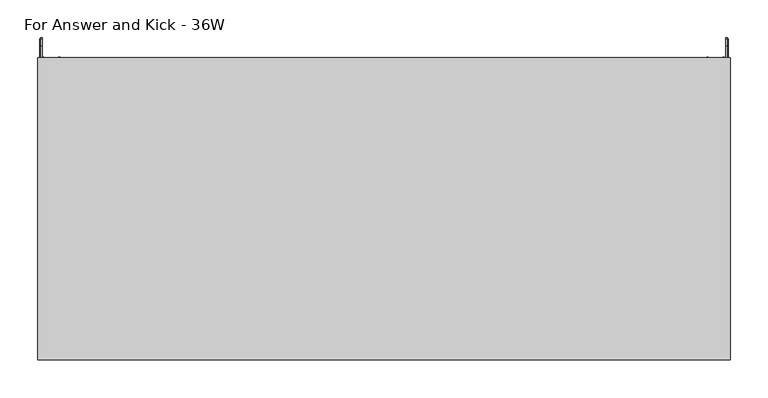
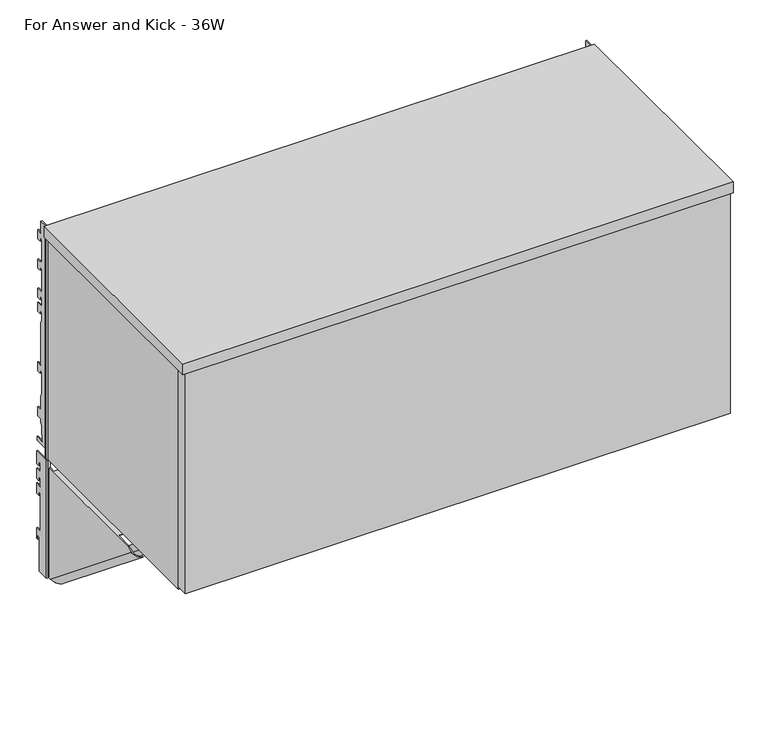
"""IFC4 building model written with IfcOpenShell, lengths in millimetres: furniture geometry, Steelcase - Universal Storage - In the Case Bin - Flat Front : For Answer and Kick - 36W."""

from ifc_helpers import new_model, si_unit, point, frame, frame_2d, origin, place, context, project, spatial, polyline, circle_curve, ellipse_curve, trimmed, segment, composite_curve, outline, extrude, faceted_brep, source, transform, mapped, element, save
from ifc_brep_helpers import plane_surface, cylinder_surface, revolved_surface, advanced_brep


def for_answer_and_kick_36w_da389676(model_context):
    return source(origin(), model_context, "Body", "SolidModel", [
        advanced_brep(
        [(4.0894, 24.9864881, 1247.9655), (4.0894, 1.1327479, 1247.9655), (4.0894, 1.1203386, 1040.9809), (4.0894, 17.3410881, 1040.9809), (4.0894, 17.3410881, 1101.1280822), (4.0894, 21.4050888, 1101.1280822), (4.0894, 21.4050888, 1094.7781064), (4.0894, 24.9864881, 1094.7781064), (4.0894, 24.9864881, 1113.0407271), (4.0894, 14.7756879, 1113.0407271), (4.0894, 14.7756879, 1179.6141345), (4.0894, 18.8396885, 1179.6141345), (4.0894, 18.8396885, 1173.264086), (4.0894, 24.9864881, 1173.264086), (4.0894, 24.9864881, 1191.5267068), (4.0894, 14.7756879, 1191.5267068), (4.0894, 14.7756879, 1205.7761277), (4.0894, 18.8396885, 1205.7761277), (4.0894, 18.8396885, 1199.4260793), (4.0894, 24.9864881, 1199.4260793), (4.0894, 24.9864881, 1217.6887), (4.0894, 14.7756879, 1217.6887), (4.0894, 14.7756879, 1231.9381209), (4.0894, 18.8396885, 1231.9381209), (4.0894, 18.8396885, 1225.5880725), (4.0894, 24.9864881, 1225.5880725), (2.1844, 24.9864881, 1247.9655), (2.1844, 24.9864881, 1225.5880725), (2.1844, 18.8396885, 1225.5880725), (2.1844, 18.8396885, 1231.9381209), (2.1844, 14.7756879, 1231.9381209), (2.1844, 14.7756879, 1217.6887), (2.1844, 24.9864881, 1217.6887), (2.1844, 24.9864881, 1199.4260793), (2.1844, 18.8396885, 1199.4260793), (2.1844, 18.8396885, 1205.7761277), (2.1844, 14.7756879, 1205.7761277), (2.1844, 14.7756879, 1191.5267068), (2.1844, 24.9864881, 1191.5267068), (2.1844, 24.9864881, 1173.264086), (2.1844, 18.8396885, 1173.264086), (2.1844, 18.8396885, 1179.6141345), (2.1844, 14.7756879, 1179.6141345), (2.1844, 14.7756879, 1113.0407271), (2.1844, 24.9864881, 1113.0407271), (2.1844, 24.9864881, 1094.7781064), (2.1844, 21.4050888, 1094.7781064), (2.1844, 21.4050888, 1101.1280822), (2.1844, 17.3410881, 1101.1280822), (2.1844, 17.3410881, 1040.9809), (2.1844, -0.7757522, 1040.9809), (2.1844, -0.7757522, 1247.9655), (4.4891598, -3.080512, 1247.9655), (8.1026, -3.080512, 1247.9655), (8.1026, -1.7838863, 1247.9655), (7.4942256, -1.175512, 1247.9655), (6.3852506, -1.175512, 1247.9655), (6.3852506, -1.175512, 1040.9809), (7.4942256, -1.175512, 1040.9809), (8.1026, -1.7838863, 1040.9809), (8.1026, -3.080512, 1040.9809), (4.4891598, -3.080512, 1040.9809)],
        [
            (0, 1),
            (1, 2),
            (2, 3),
            (3, 4),
            (4, 5),
            (5, 6),
            (6, 7),
            (7, 8),
            (8, 9),
            (9, 10),
            (10, 11),
            (11, 12),
            (12, 13),
            (13, 14),
            (14, 15),
            (15, 16),
            (16, 17),
            (17, 18),
            (18, 19),
            (19, 20),
            (20, 21),
            (21, 22),
            (22, 23),
            (23, 24),
            (24, 25),
            (25, 0),
            (26, 27),
            (27, 28),
            (28, 29),
            (29, 30),
            (30, 31),
            (31, 32),
            (32, 33),
            (33, 34),
            (34, 35),
            (35, 36),
            (36, 37),
            (37, 38),
            (38, 39),
            (39, 40),
            (40, 41),
            (41, 42),
            (42, 43),
            (43, 44),
            (44, 45),
            (45, 46),
            (46, 47),
            (47, 48),
            (48, 49),
            (49, 50),
            (50, 51),
            (51, 26),
            (0, 26),
            (51, 52, circle_curve(frame((4.4891598, -0.7757522, 1247.9655), z_axis=(0.0, 0.0, 1.0), x_axis=(1.0, 0.0, 0.0)), 2.3047598)),
            (52, 53),
            (53, 54),
            (54, 55, circle_curve(frame((7.4942256, -1.7838863, 1247.9655), z_axis=(0.0, 0.0, 1.0), x_axis=(1.0, 0.0, 0.0)), 0.6083744)),
            (55, 56),
            (56, 1, circle_curve(frame((6.3852506, 1.1203386, 1247.9655), z_axis=(0.0, 0.0, -1.0), x_axis=(1.0, 0.0, 0.0)), 2.2958506)),
            (2, 57, circle_curve(frame((6.3852506, 1.1203386, 1040.9809), z_axis=(0.0, 0.0, 1.0), x_axis=(1.0, 0.0, 0.0)), 2.2958506)),
            (57, 58),
            (58, 59, circle_curve(frame((7.4942256, -1.7838863, 1040.9809), z_axis=(0.0, 0.0, -1.0), x_axis=(1.0, 0.0, 0.0)), 0.6083744)),
            (59, 60),
            (60, 61),
            (61, 50, circle_curve(frame((4.4891598, -0.7757522, 1040.9809), z_axis=(0.0, 0.0, -1.0), x_axis=(1.0, 0.0, 0.0)), 2.3047598)),
            (49, 3),
            (48, 4),
            (47, 5),
            (46, 6),
            (45, 7),
            (44, 8),
            (43, 9),
            (42, 10),
            (41, 11),
            (40, 12),
            (39, 13),
            (38, 14),
            (37, 15),
            (36, 16),
            (35, 17),
            (34, 18),
            (33, 19),
            (32, 20),
            (31, 21),
            (30, 22),
            (29, 23),
            (28, 24),
            (27, 25),
            (61, 52),
            (60, 53),
            (59, 54),
            (58, 55),
            (57, 56),
        ],
        [
            plane_surface(frame((4.0894, 1.241405, 1247.9655), z_axis=(1.0, 0.0, 0.0), x_axis=(0.0, -1.0, 0.0))),
            plane_surface(frame((2.1844, 1.241405, 1247.9655), z_axis=(-1.0, 0.0, 0.0), x_axis=(0.0, 1.0, 0.0))),
            plane_surface(frame((4.0894, 24.9864881, 1247.9655), z_axis=(0.0, 0.0, 1.0), x_axis=(-1.0, 0.0, 0.0))),
            plane_surface(frame((4.0894, 1.1327479, 1040.9809), z_axis=(0.0, 0.0, -1.0), x_axis=(-1.0, 0.0, 0.0))),
            plane_surface(frame((4.0894, 17.3410881, 1040.9809), z_axis=(0.0, 1.0, 0.0), x_axis=(-1.0, 0.0, 0.0))),
            plane_surface(frame((4.0894, 17.3410881, 1101.1280822), z_axis=(0.0, 0.0, -1.0), x_axis=(-1.0, 0.0, 0.0))),
            plane_surface(frame((4.0894, 21.4050888, 1101.1280822), z_axis=(0.0, -1.0, 0.0), x_axis=(-1.0, 0.0, 0.0))),
            plane_surface(frame((4.0894, 21.4050888, 1094.7781064), z_axis=(0.0, 0.0, -1.0), x_axis=(-1.0, 0.0, 0.0))),
            plane_surface(frame((4.0894, 24.9864881, 1094.7781064), z_axis=(0.0, 1.0, 0.0), x_axis=(-1.0, 0.0, 0.0))),
            plane_surface(frame((4.0894, 24.9864881, 1113.0407271), z_axis=(0.0, 0.0, 1.0), x_axis=(-1.0, 0.0, 0.0))),
            plane_surface(frame((4.0894, 14.7756879, 1113.0407271), z_axis=(0.0, 1.0, 0.0), x_axis=(-1.0, 0.0, 0.0))),
            plane_surface(frame((4.0894, 14.7756879, 1179.6141345), z_axis=(0.0, 0.0, -1.0), x_axis=(-1.0, 0.0, 0.0))),
            plane_surface(frame((4.0894, 18.8396885, 1179.6141345), z_axis=(0.0, -1.0, 0.0), x_axis=(-1.0, 0.0, 0.0))),
            plane_surface(frame((4.0894, 18.8396885, 1173.264086), z_axis=(0.0, 0.0, -1.0), x_axis=(-1.0, 0.0, 0.0))),
            plane_surface(frame((4.0894, 24.9864881, 1173.264086), z_axis=(0.0, 1.0, 0.0), x_axis=(-1.0, 0.0, 0.0))),
            plane_surface(frame((4.0894, 24.9864881, 1191.5267068), z_axis=(0.0, 0.0, 1.0), x_axis=(-1.0, 0.0, 0.0))),
            plane_surface(frame((4.0894, 14.7756879, 1191.5267068), z_axis=(0.0, 1.0, 0.0), x_axis=(-1.0, 0.0, 0.0))),
            plane_surface(frame((4.0894, 14.7756879, 1205.7761277), z_axis=(0.0, 0.0, -1.0), x_axis=(-1.0, 0.0, 0.0))),
            plane_surface(frame((4.0894, 18.8396885, 1205.7761277), z_axis=(0.0, -1.0, 0.0), x_axis=(-1.0, 0.0, 0.0))),
            plane_surface(frame((4.0894, 18.8396885, 1199.4260793), z_axis=(0.0, 0.0, -1.0), x_axis=(-1.0, 0.0, 0.0))),
            plane_surface(frame((4.0894, 24.9864881, 1199.4260793), z_axis=(0.0, 1.0, 0.0), x_axis=(-1.0, 0.0, 0.0))),
            plane_surface(frame((4.0894, 24.9864881, 1217.6887), z_axis=(0.0, 0.0, 1.0), x_axis=(-1.0, 0.0, 0.0))),
            plane_surface(frame((4.0894, 14.7756879, 1217.6887), z_axis=(0.0, 1.0, 0.0), x_axis=(-1.0, 0.0, 0.0))),
            plane_surface(frame((4.0894, 14.7756879, 1231.9381209), z_axis=(0.0, 0.0, -1.0), x_axis=(-1.0, 0.0, 0.0))),
            plane_surface(frame((4.0894, 18.8396885, 1231.9381209), z_axis=(0.0, -1.0, 0.0), x_axis=(-1.0, 0.0, 0.0))),
            plane_surface(frame((4.0894, 18.8396885, 1225.5880725), z_axis=(0.0, 0.0, -1.0), x_axis=(-1.0, 0.0, 0.0))),
            plane_surface(frame((4.0894, 24.9864881, 1225.5880725), z_axis=(0.0, 1.0, 0.0), x_axis=(-1.0, 0.0, 0.0))),
            cylinder_surface(frame((4.4891598, -0.7757522, 1040.9809), z_axis=(0.0, 0.0, 1.0), x_axis=(1.0, 0.0, 0.0)), 2.3047598),
            plane_surface(frame((4.4891598, -3.080512, 1247.9655), z_axis=(0.0, -1.0, 0.0), x_axis=(0.0, 0.0, -1.0))),
            plane_surface(frame((8.1026, -3.080512, 1247.9655), z_axis=(1.0, 0.0, 0.0), x_axis=(0.0, 0.0, -1.0))),
            cylinder_surface(frame((7.4942256, -1.7838863, 1040.9809), z_axis=(0.0, 0.0, 1.0), x_axis=(1.0, 0.0, 0.0)), 0.6083744),
            plane_surface(frame((7.4942256, -1.175512, 1247.9655), z_axis=(0.0, 1.0, 0.0), x_axis=(0.0, 0.0, -1.0))),
            revolved_surface(polyline([(8.6811012, 1.1203386, 1040.9809), (8.6811012, 1.1203386, 1247.9655)]), (6.3852506, 1.1203386, 1040.9809), (0.0, 0.0, -1.0)),
        ],
        [
            (0, [[1, 2, 3, 4, 5, 6, 7, 8, 9, 10, 11, 12, 13, 14, 15, 16, 17, 18, 19, 20, 21, 22, 23, 24, 25, 26]]),
            (1, [[27, 28, 29, 30, 31, 32, 33, 34, 35, 36, 37, 38, 39, 40, 41, 42, 43, 44, 45, 46, 47, 48, 49, 50, 51, 52]]),
            (2, [[-1, 53, -52, 54, 55, 56, 57, 58, 59]]),
            (3, [[-3, 60, 61, 62, 63, 64, 65, -50, 66]]),
            (4, [[-4, -66, -49, 67]]),
            (5, [[-5, -67, -48, 68]]),
            (6, [[-6, -68, -47, 69]]),
            (7, [[-7, -69, -46, 70]]),
            (8, [[-8, -70, -45, 71]]),
            (9, [[-9, -71, -44, 72]]),
            (10, [[-10, -72, -43, 73]]),
            (11, [[-11, -73, -42, 74]]),
            (12, [[-12, -74, -41, 75]]),
            (13, [[-13, -75, -40, 76]]),
            (14, [[-14, -76, -39, 77]]),
            (15, [[-15, -77, -38, 78]]),
            (16, [[-16, -78, -37, 79]]),
            (17, [[-17, -79, -36, 80]]),
            (18, [[-18, -80, -35, 81]]),
            (19, [[-19, -81, -34, 82]]),
            (20, [[-20, -82, -33, 83]]),
            (21, [[-21, -83, -32, 84]]),
            (22, [[-22, -84, -31, 85]]),
            (23, [[-23, -85, -30, 86]]),
            (24, [[-24, -86, -29, 87]]),
            (25, [[-25, -87, -28, 88]]),
            (26, [[-26, -88, -27, -53]]),
            (27, [[-54, -51, -65, 89]]),
            (28, [[-55, -89, -64, 90]]),
            (29, [[-56, -90, -63, 91]]),
            (30, [[-57, -91, -62, 92]]),
            (31, [[-58, -92, -61, 93]]),
            (32, [[-59, -93, -60, -2]]),
        ],
    ),
        advanced_brep(
        [(910.3106, 24.9864881, 1247.9655), (910.3106, 24.9864881, 1225.5880725), (910.3106, 18.8396885, 1225.5880725), (910.3106, 18.8396885, 1231.9381209), (910.3106, 14.7756879, 1231.9381209), (910.3106, 14.7756879, 1217.6887), (910.3106, 24.9864881, 1217.6887), (910.3106, 24.9864881, 1199.4260793), (910.3106, 18.8396885, 1199.4260793), (910.3106, 18.8396885, 1205.7761277), (910.3106, 14.7756879, 1205.7761277), (910.3106, 14.7756879, 1191.5267068), (910.3106, 24.9864881, 1191.5267068), (910.3106, 24.9864881, 1173.264086), (910.3106, 18.8396885, 1173.264086), (910.3106, 18.8396885, 1179.6141345), (910.3106, 14.7756879, 1179.6141345), (910.3106, 14.7756879, 1113.0407271), (910.3106, 24.9864881, 1113.0407271), (910.3106, 24.9864881, 1094.7781064), (910.3106, 21.4050888, 1094.7781064), (910.3106, 21.4050888, 1101.1280822), (910.3106, 17.3410881, 1101.1280822), (910.3106, 17.3410881, 1040.9809), (910.3106, 1.1327479, 1040.9809), (910.3106, 1.1203386, 1247.9655), (912.2156, -0.7757522, 1247.9655), (912.2156, -0.7757522, 1040.9809), (912.2156, 17.3410881, 1040.9809), (912.2156, 17.3410881, 1101.1280822), (912.2156, 21.4050888, 1101.1280822), (912.2156, 21.4050888, 1094.7781064), (912.2156, 24.9864881, 1094.7781064), (912.2156, 24.9864881, 1113.0407271), (912.2156, 14.7756879, 1113.0407271), (912.2156, 14.7756879, 1179.6141345), (912.2156, 18.8396885, 1179.6141345), (912.2156, 18.8396885, 1173.264086), (912.2156, 24.9864881, 1173.264086), (912.2156, 24.9864881, 1191.5267068), (912.2156, 14.7756879, 1191.5267068), (912.2156, 14.7756879, 1205.7761277), (912.2156, 18.8396885, 1205.7761277), (912.2156, 18.8396885, 1199.4260793), (912.2156, 24.9864881, 1199.4260793), (912.2156, 24.9864881, 1217.6887), (912.2156, 14.7756879, 1217.6887), (912.2156, 14.7756879, 1231.9381209), (912.2156, 18.8396885, 1231.9381209), (912.2156, 18.8396885, 1225.5880725), (912.2156, 24.9864881, 1225.5880725), (912.2156, 24.9864881, 1247.9655), (909.9108402, -3.080512, 1040.9809), (906.5006, -3.080512, 1040.9809), (906.5006, -1.7838863, 1040.9809), (907.1089744, -1.175512, 1040.9809), (908.0147494, -1.175512, 1040.9809), (908.0147494, -1.175512, 1247.9655), (907.1089744, -1.175512, 1247.9655), (906.5006, -1.7838863, 1247.9655), (906.5006, -3.080512, 1247.9655), (909.9108402, -3.080512, 1247.9655)],
        [
            (0, 1),
            (1, 2),
            (2, 3),
            (3, 4),
            (4, 5),
            (5, 6),
            (6, 7),
            (7, 8),
            (8, 9),
            (9, 10),
            (10, 11),
            (11, 12),
            (12, 13),
            (13, 14),
            (14, 15),
            (15, 16),
            (16, 17),
            (17, 18),
            (18, 19),
            (19, 20),
            (20, 21),
            (21, 22),
            (22, 23),
            (23, 24),
            (24, 25),
            (25, 0),
            (26, 27),
            (27, 28),
            (28, 29),
            (29, 30),
            (30, 31),
            (31, 32),
            (32, 33),
            (33, 34),
            (34, 35),
            (35, 36),
            (36, 37),
            (37, 38),
            (38, 39),
            (39, 40),
            (40, 41),
            (41, 42),
            (42, 43),
            (43, 44),
            (44, 45),
            (45, 46),
            (46, 47),
            (47, 48),
            (48, 49),
            (49, 50),
            (50, 51),
            (51, 26),
            (0, 51),
            (50, 1),
            (49, 2),
            (48, 3),
            (47, 4),
            (46, 5),
            (45, 6),
            (44, 7),
            (43, 8),
            (42, 9),
            (41, 10),
            (40, 11),
            (39, 12),
            (38, 13),
            (37, 14),
            (36, 15),
            (35, 16),
            (34, 17),
            (33, 18),
            (32, 19),
            (31, 20),
            (30, 21),
            (29, 22),
            (28, 23),
            (27, 52, circle_curve(frame((909.9108402, -0.7757522, 1040.9809), z_axis=(0.0, 0.0, -1.0), x_axis=(0.0, 1.0, 0.0)), 2.3047598)),
            (52, 53),
            (53, 54),
            (54, 55, circle_curve(frame((907.1089744, -1.7838863, 1040.9809), z_axis=(0.0, 0.0, -1.0), x_axis=(0.0, 1.0, 0.0)), 0.6083744)),
            (55, 56),
            (56, 24, circle_curve(frame((908.0147494, 1.1203386, 1040.9809), z_axis=(0.0, 0.0, 1.0), x_axis=(0.0, 1.0, 0.0)), 2.2958506)),
            (25, 57, circle_curve(frame((908.0147494, 1.1203386, 1247.9655), z_axis=(0.0, 0.0, -1.0), x_axis=(0.0, 1.0, 0.0)), 2.2958506)),
            (57, 58),
            (58, 59, circle_curve(frame((907.1089744, -1.7838863, 1247.9655), z_axis=(0.0, 0.0, 1.0), x_axis=(0.0, 1.0, 0.0)), 0.6083744)),
            (59, 60),
            (60, 61),
            (61, 26, circle_curve(frame((909.9108402, -0.7757522, 1247.9655), z_axis=(0.0, 0.0, 1.0), x_axis=(0.0, 1.0, 0.0)), 2.3047598)),
            (56, 57),
            (55, 58),
            (54, 59),
            (53, 60),
            (52, 61),
        ],
        [
            plane_surface(frame((910.3106, 24.9864881, 1247.9655), z_axis=(-1.0, 0.0, 0.0), x_axis=(0.0, 0.0, -1.0))),
            plane_surface(frame((912.2156, 24.9864881, 1247.9655), z_axis=(1.0, 0.0, 0.0), x_axis=(0.0, 0.0, 1.0))),
            plane_surface(frame((910.3106, 24.9864881, 1247.9655), z_axis=(0.0, 1.0, 0.0), x_axis=(1.0, 0.0, 0.0))),
            plane_surface(frame((910.3106, 24.9864881, 1225.5880725), z_axis=(0.0, 0.0, -1.0), x_axis=(1.0, 0.0, 0.0))),
            plane_surface(frame((910.3106, 18.8396885, 1225.5880725), z_axis=(0.0, -1.0, 0.0), x_axis=(1.0, 0.0, 0.0))),
            plane_surface(frame((910.3106, 18.8396885, 1231.9381209), z_axis=(0.0, 0.0, -1.0), x_axis=(1.0, 0.0, 0.0))),
            plane_surface(frame((910.3106, 14.7756879, 1231.9381209), z_axis=(0.0, 1.0, 0.0), x_axis=(1.0, 0.0, 0.0))),
            plane_surface(frame((910.3106, 14.7756879, 1217.6887), z_axis=(0.0, 0.0, 1.0), x_axis=(1.0, 0.0, 0.0))),
            plane_surface(frame((910.3106, 24.9864881, 1217.6887), z_axis=(0.0, 1.0, 0.0), x_axis=(1.0, 0.0, 0.0))),
            plane_surface(frame((910.3106, 24.9864881, 1199.4260793), z_axis=(0.0, 0.0, -1.0), x_axis=(1.0, 0.0, 0.0))),
            plane_surface(frame((910.3106, 18.8396885, 1199.4260793), z_axis=(0.0, -1.0, 0.0), x_axis=(1.0, 0.0, 0.0))),
            plane_surface(frame((910.3106, 18.8396885, 1205.7761277), z_axis=(0.0, 0.0, -1.0), x_axis=(1.0, 0.0, 0.0))),
            plane_surface(frame((910.3106, 14.7756879, 1205.7761277), z_axis=(0.0, 1.0, 0.0), x_axis=(1.0, 0.0, 0.0))),
            plane_surface(frame((910.3106, 14.7756879, 1191.5267068), z_axis=(0.0, 0.0, 1.0), x_axis=(1.0, 0.0, 0.0))),
            plane_surface(frame((910.3106, 24.9864881, 1191.5267068), z_axis=(0.0, 1.0, 0.0), x_axis=(1.0, 0.0, 0.0))),
            plane_surface(frame((910.3106, 24.9864881, 1173.264086), z_axis=(0.0, 0.0, -1.0), x_axis=(1.0, 0.0, 0.0))),
            plane_surface(frame((910.3106, 18.8396885, 1173.264086), z_axis=(0.0, -1.0, 0.0), x_axis=(1.0, 0.0, 0.0))),
            plane_surface(frame((910.3106, 18.8396885, 1179.6141345), z_axis=(0.0, 0.0, -1.0), x_axis=(1.0, 0.0, 0.0))),
            plane_surface(frame((910.3106, 14.7756879, 1179.6141345), z_axis=(0.0, 1.0, 0.0), x_axis=(1.0, 0.0, 0.0))),
            plane_surface(frame((910.3106, 14.7756879, 1113.0407271), z_axis=(0.0, 0.0, 1.0), x_axis=(1.0, 0.0, 0.0))),
            plane_surface(frame((910.3106, 24.9864881, 1113.0407271), z_axis=(0.0, 1.0, 0.0), x_axis=(1.0, 0.0, 0.0))),
            plane_surface(frame((910.3106, 24.9864881, 1094.7781064), z_axis=(0.0, 0.0, -1.0), x_axis=(1.0, 0.0, 0.0))),
            plane_surface(frame((910.3106, 21.4050888, 1094.7781064), z_axis=(0.0, -1.0, 0.0), x_axis=(1.0, 0.0, 0.0))),
            plane_surface(frame((910.3106, 21.4050888, 1101.1280822), z_axis=(0.0, 0.0, -1.0), x_axis=(1.0, 0.0, 0.0))),
            plane_surface(frame((910.3106, 17.3410881, 1101.1280822), z_axis=(0.0, 1.0, 0.0), x_axis=(1.0, 0.0, 0.0))),
            plane_surface(frame((910.3106, 17.3410881, 1040.9809), z_axis=(0.0, 0.0, -1.0), x_axis=(1.0, 0.0, 0.0))),
            plane_surface(frame((910.3106, 1.1327479, 1247.9655), z_axis=(0.0, 0.0, 1.0), x_axis=(1.0, 0.0, 0.0))),
            revolved_surface(polyline([(908.0147494, 3.4161892, 1040.9809), (908.0147494, 3.4161892, 1247.9655)]), (908.0147494, 1.1203386, 1040.9809), (0.0, 0.0, -1.0)),
            plane_surface(frame((908.0147494, -1.175512, 1247.9655), z_axis=(3.842968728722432e-11, 1.0, 0.0), x_axis=(0.0, 0.0, -1.0))),
            cylinder_surface(frame((907.1089744, -1.7838863, 1040.9809), z_axis=(0.0, 0.0, 1.0), x_axis=(0.0, 1.0, 0.0)), 0.6083744),
            plane_surface(frame((906.5006, -1.7838863, 1247.9655), z_axis=(-1.0, 0.0, 0.0), x_axis=(0.0, 0.0, -1.0))),
            plane_surface(frame((906.5006, -3.080512, 1247.9655), z_axis=(7.375377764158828e-12, -1.0, 0.0), x_axis=(0.0, 0.0, -1.0))),
            cylinder_surface(frame((909.9108402, -0.7757522, 1040.9809), z_axis=(0.0, 0.0, 1.0), x_axis=(0.0, 1.0, 0.0)), 2.3047598),
        ],
        [
            (0, [[1, 2, 3, 4, 5, 6, 7, 8, 9, 10, 11, 12, 13, 14, 15, 16, 17, 18, 19, 20, 21, 22, 23, 24, 25, 26]]),
            (1, [[27, 28, 29, 30, 31, 32, 33, 34, 35, 36, 37, 38, 39, 40, 41, 42, 43, 44, 45, 46, 47, 48, 49, 50, 51, 52]]),
            (2, [[-1, 53, -51, 54]]),
            (3, [[-2, -54, -50, 55]]),
            (4, [[-3, -55, -49, 56]]),
            (5, [[-4, -56, -48, 57]]),
            (6, [[-5, -57, -47, 58]]),
            (7, [[-6, -58, -46, 59]]),
            (8, [[-7, -59, -45, 60]]),
            (9, [[-8, -60, -44, 61]]),
            (10, [[-9, -61, -43, 62]]),
            (11, [[-10, -62, -42, 63]]),
            (12, [[-11, -63, -41, 64]]),
            (13, [[-12, -64, -40, 65]]),
            (14, [[-13, -65, -39, 66]]),
            (15, [[-14, -66, -38, 67]]),
            (16, [[-15, -67, -37, 68]]),
            (17, [[-16, -68, -36, 69]]),
            (18, [[-17, -69, -35, 70]]),
            (19, [[-18, -70, -34, 71]]),
            (20, [[-19, -71, -33, 72]]),
            (21, [[-20, -72, -32, 73]]),
            (22, [[-21, -73, -31, 74]]),
            (23, [[-22, -74, -30, 75]]),
            (24, [[-23, -75, -29, 76]]),
            (25, [[-24, -76, -28, 77, 78, 79, 80, 81, 82]]),
            (26, [[-26, 83, 84, 85, 86, 87, 88, -52, -53]]),
            (27, [[-83, -25, -82, 89]]),
            (28, [[-84, -89, -81, 90]]),
            (29, [[-85, -90, -80, 91]]),
            (30, [[-86, -91, -79, 92]]),
            (31, [[-87, -92, -78, 93]]),
            (32, [[-88, -93, -77, -27]]),
        ],
    ),
        advanced_brep(
        [(885.3424, -230.0833372, 1233.8431), (885.3424, 1.1327479, 1046.6079738), (883.2342, 1.1327479, 1046.6079738), (883.2342, -230.0833372, 1233.8431), (883.2342, 1.1327479, 1040.9809), (883.2342, -7.7654502, 1040.9809), (883.2342, -240.6555763, 1229.5716381), (906.5006, -7.7654502, 1040.9809), (906.5006, -240.6555763, 1229.5716381), (906.5006, 1.1327479, 1040.9809), (906.5006, 1.1327479, 1046.6079738), (906.5006, -3.080512, 1050.019805), (906.5006, -3.080512, 1233.8431), (906.5006, -230.0833372, 1233.8431), (904.3924009, 1.1327479, 1046.6079738), (904.3924009, -3.080512, 1050.019805), (904.3924009, -7.7654502, 1040.9809), (904.3924009, -240.6555763, 1229.5716381), (904.3924009, -230.0833372, 1233.8431), (904.3924009, -200.311512, 1233.8431), (904.3924009, -200.311512, 1233.0049163), (904.3924009, -14.0787123, 1233.0049163), (904.3924009, -14.0787123, 1233.8431), (904.3924009, -3.080512, 1233.8431), (904.3924009, 1.1327479, 1040.9809), (885.3424, -7.7654502, 1040.9809), (885.3424, -240.6555763, 1229.5716381), (885.3424, 1.1327479, 1040.9809), (875.4617978, -200.311512, 1233.8431), (875.4617978, -200.311512, 1252.2581016), (874.6236, -200.311512, 1252.2581016), (874.6236, -200.311512, 1233.0049163), (874.6236, -82.5825138, 1252.2581016), (875.4617978, -82.5825138, 1252.2581016), (875.4617978, -82.5825138, 1233.8431), (874.6236, -82.5825138, 1233.8431), (874.6236, -14.0787123, 1233.8431), (874.6236, -14.0787123, 1233.0049163)],
        [
            (0, 1),
            (1, 2),
            (2, 3),
            (3, 0),
            (2, 4),
            (4, 5),
            (5, 6),
            (6, 3),
            (5, 7, ellipse_curve(frame((894.8674, -7.7654502, 1040.9809), z_axis=(0.0, 0.0, 1.0), x_axis=(0.0, -1.0, 0.0)), 18.4853359, 11.6332)),
            (7, 8),
            (8, 6, ellipse_curve(frame((894.8674, -240.6555763, 1229.5716381), z_axis=(0.0, 0.374606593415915, -0.9271838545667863), x_axis=(0.0, -0.9271838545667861, -0.3746065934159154)), 13.3008659, 11.6332)),
            (7, 9),
            (9, 10),
            (10, 11),
            (11, 12),
            (12, 13),
            (13, 8),
            (10, 14),
            (14, 15),
            (15, 11),
            (16, 17),
            (17, 18),
            (18, 19),
            (19, 20),
            (20, 21),
            (21, 22),
            (22, 23),
            (23, 15),
            (14, 24),
            (24, 16),
            (16, 25, ellipse_curve(frame((894.8674005, -7.7654502, 1040.9809), z_axis=(0.0, 0.0, -1.0), x_axis=(0.0, 1.0, 0.0)), 15.135374, 9.5250005)),
            (25, 26),
            (26, 17, ellipse_curve(frame((894.8674005, -240.6555763, 1229.5716381), z_axis=(0.0, -0.374606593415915, 0.9271838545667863), x_axis=(0.0, 0.9271838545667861, 0.3746065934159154)), 10.8904475, 9.5250005)),
            (0, 26),
            (25, 27),
            (27, 1),
            (13, 18),
            (24, 9),
            (4, 27),
            (28, 29),
            (29, 30),
            (30, 31),
            (31, 20),
            (19, 28),
            (32, 33),
            (33, 34),
            (34, 35),
            (35, 32),
            (35, 36),
            (36, 37),
            (37, 31),
            (30, 32),
            (28, 34),
            (33, 29),
            (36, 22),
            (21, 37),
            (12, 23),
        ],
        [
            plane_surface(frame((885.3424, -241.2702093, 1242.902052), z_axis=(0.0, 0.6293204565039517, 0.7771459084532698), x_axis=(0.0, 0.7771459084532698, -0.6293204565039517))),
            plane_surface(frame((883.2342, -241.2702093, 1242.902052), z_axis=(-1.0000000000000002, 0.0, 0.0), x_axis=(0.0, 0.7771459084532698, -0.6293204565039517))),
            cylinder_surface(frame((894.8674, 5.728998, 1030.0533094), z_axis=(0.0, -0.7771459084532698, 0.6293204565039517), x_axis=(0.0, 0.6293204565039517, 0.7771459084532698)), 11.6332),
            plane_surface(frame((906.5006, -247.5463438, 1235.1516726), z_axis=(1.0000000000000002, 0.0, 0.0), x_axis=(0.0, 0.7771459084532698, -0.6293204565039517))),
            plane_surface(frame((906.5006, -241.2702093, 1242.902052), z_axis=(0.0, 0.6293204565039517, 0.7771459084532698), x_axis=(0.0, 0.7771459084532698, -0.6293204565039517))),
            plane_surface(frame((904.3924009, -241.2702093, 1242.902052), z_axis=(-1.0000000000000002, 0.0, 0.0), x_axis=(0.0, 0.7771459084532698, -0.6293204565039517))),
            revolved_surface(polyline([(894.8674005, 7.3699238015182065, 1040.980900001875), (894.8674005, -238.76446812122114, 1240.2966349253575)]), (894.8674005, 5.728998, 1030.0533094), (0.0, 0.7771459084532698, -0.6293204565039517)),
            plane_surface(frame((885.3424, -247.5463438, 1235.1516726), z_axis=(1.0000000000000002, 0.0, 0.0), x_axis=(0.0, 0.7771459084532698, -0.6293204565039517))),
            plane_surface(frame((914.4, -257.2236519, 1222.8777011), z_axis=(0.0, -0.374606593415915, 0.9271838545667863), x_axis=(-1.0, 0.0, 0.0))),
            plane_surface(frame((914.4, 1.1327479, 1040.9809), z_axis=(0.0, 0.0, -1.0), x_axis=(-1.0, 0.0, 0.0))),
            plane_surface(frame((914.4, 1.1327479, 1053.6809), z_axis=(0.0, 1.0, 0.0), x_axis=(-1.0, 0.0, 0.0))),
            plane_surface(frame((874.6236, -200.311512, 1252.2581016), z_axis=(0.0, -1.0, 0.0), x_axis=(0.0, 0.0, -1.0))),
            plane_surface(frame((874.6236, -82.5825138, 1252.2581016), z_axis=(0.0, 1.0, 0.0), x_axis=(0.0, 0.0, 1.0))),
            plane_surface(frame((874.6236, -200.311512, 1252.2581016), z_axis=(-1.0, 0.0, 0.0), x_axis=(0.0, 1.0, 0.0))),
            plane_surface(frame((875.4617978, -200.311512, 1233.8431), z_axis=(1.0, 0.0, 0.0), x_axis=(0.0, 1.0, 0.0))),
            plane_surface(frame((875.4617978, -200.311512, 1252.2581016), z_axis=(0.0, 0.0, 1.0), x_axis=(0.0, 1.0, 0.0))),
            plane_surface(frame((874.6236, -14.0787123, 1233.8431), z_axis=(0.0, 1.0, 0.0), x_axis=(0.0, 0.0, 1.0))),
            plane_surface(frame((874.6236, -200.311512, 1233.0049163), z_axis=(0.0, 0.0, -1.0), x_axis=(0.0, 1.0, 0.0))),
            plane_surface(frame((906.5006, -200.311512, 1233.8431), z_axis=(0.0, 0.0, 1.0), x_axis=(0.0, 1.0, 0.0))),
            plane_surface(frame((906.5006, -3.080512, 1050.019805), z_axis=(0.0, 1.0, 0.0), x_axis=(-1.0, 0.0, 0.0))),
        ],
        [
            (0, [[1, 2, 3, 4]]),
            (1, [[-3, 5, 6, 7, 8]]),
            (2, [[-7, 9, 10, 11]]),
            (3, [[-10, 12, 13, 14, 15, 16, 17]]),
            (4, [[18, 19, 20, -14]]),
            (5, [[21, 22, 23, 24, 25, 26, 27, 28, -19, 29, 30]]),
            (6, [[-21, 31, 32, 33]]),
            (7, [[-1, 34, -32, 35, 36]]),
            (8, [[-4, -8, -11, -17, 37, -22, -33, -34]]),
            (9, [[38, -12, -9, -6, 39, -35, -31, -30]]),
            (10, [[-38, -29, -18, -13]]),
            (10, [[-39, -5, -2, -36]]),
            (11, [[40, 41, 42, 43, -24, 44]]),
            (12, [[45, 46, 47, 48]]),
            (13, [[-48, 49, 50, 51, -42, 52]]),
            (14, [[-40, 53, -46, 54]]),
            (15, [[-41, -54, -45, -52]]),
            (16, [[-50, 55, -26, 56]]),
            (17, [[-51, -56, -25, -43]]),
            (18, [[57, -27, -55, -49, -47, -53, -44, -23, -37, -16]]),
            (19, [[-15, -20, -28, -57]]),
        ],
    ),
        advanced_brep(
        [(8.1026, -3.080512, 1050.019805), (8.1026, -3.080512, 1233.8431), (8.1026, -14.0787123, 1233.8431), (8.1026, -14.0787123, 1233.0049163), (8.1026, -200.311512, 1233.0049163), (8.1026, -200.311512, 1233.8431), (8.1026, -230.0833372, 1233.8431), (8.1026, -240.6555763, 1229.5716381), (8.1026, -7.7654502, 1040.9809), (8.1026, 1.1327479, 1040.9809), (8.1026, 1.1327479, 1046.6079738), (5.9944, -3.080512, 1233.8431), (5.9944, -3.080512, 1050.019805), (5.9944, 1.1327479, 1046.6079738), (5.9944, 1.1327479, 1040.9809), (5.9944, -7.7654502, 1040.9809), (5.9944, -240.6555763, 1229.5716381), (5.9944, -230.0833372, 1233.8431), (39.5732022, -200.311512, 1233.8431), (39.5732022, -82.5825138, 1233.8431), (40.4114, -82.5825138, 1233.8431), (40.4114, -14.0787123, 1233.8431), (29.2608, -7.7654502, 1040.9809), (29.2608, -240.6555763, 1229.5716381), (29.2608, 1.1327479, 1040.9809), (29.2608, 1.1327479, 1046.6079738), (29.2608, -230.0833372, 1233.8431), (27.1526009, 1.1327479, 1046.6079738), (27.1526009, -230.0833372, 1233.8431), (27.1526009, 1.1327479, 1040.9809), (27.1526009, -7.7654502, 1040.9809), (27.1526009, -240.6555763, 1229.5716381), (40.4114, -200.311512, 1233.0049163), (40.4114, -200.311512, 1252.2581016), (39.5732022, -200.311512, 1252.2581016), (40.4114, -14.0787123, 1233.0049163), (40.4114, -82.5825138, 1252.2581016), (39.5732022, -82.5825138, 1252.2581016)],
        [
            (0, 1),
            (1, 2),
            (2, 3),
            (3, 4),
            (4, 5),
            (5, 6),
            (6, 7),
            (7, 8),
            (8, 9),
            (9, 10),
            (10, 0),
            (11, 12),
            (12, 13),
            (13, 14),
            (14, 15),
            (15, 16),
            (16, 17),
            (17, 11),
            (17, 6),
            (5, 18),
            (18, 19),
            (19, 20),
            (20, 21),
            (21, 2),
            (1, 11),
            (0, 12),
            (10, 13),
            (15, 22, ellipse_curve(frame((17.6276, -7.7654502, 1040.9809), z_axis=(0.0, 0.0, 1.0), x_axis=(0.0, -1.0, 0.0)), 18.4853359, 11.6332)),
            (22, 23),
            (23, 16, ellipse_curve(frame((17.6276, -240.6555763, 1229.5716381), z_axis=(0.0, 0.374606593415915, -0.9271838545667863), x_axis=(0.0, -0.9271838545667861, -0.3746065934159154)), 13.3008659, 11.6332)),
            (22, 24),
            (24, 25),
            (25, 26),
            (26, 23),
            (25, 27),
            (27, 28),
            (28, 26),
            (27, 29),
            (29, 30),
            (30, 31),
            (31, 28),
            (7, 31, ellipse_curve(frame((17.6276005, -240.6555763, 1229.5716381), z_axis=(0.0, -0.374606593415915, 0.9271838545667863), x_axis=(0.0, 0.9271838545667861, 0.3746065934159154)), 10.8904475, 9.5250005)),
            (30, 8, ellipse_curve(frame((17.6276005, -7.7654502, 1040.9809), z_axis=(0.0, 0.0, -1.0), x_axis=(0.0, 1.0, 0.0)), 15.135374, 9.5250005)),
            (14, 9),
            (29, 24),
            (4, 32),
            (32, 33),
            (33, 34),
            (34, 18),
            (21, 35),
            (35, 3),
            (35, 32),
            (20, 36),
            (36, 33),
            (19, 37),
            (37, 36),
            (37, 34),
        ],
        [
            plane_surface(frame((8.1026, -230.0833372, 1233.8431), z_axis=(1.0, 0.0, 0.0), x_axis=(0.0, -1.0, 0.0))),
            plane_surface(frame((5.9944, -230.0833372, 1233.8431), z_axis=(-1.0, 0.0, 0.0), x_axis=(0.0, 1.0, 0.0))),
            plane_surface(frame((8.1026, -3.080512, 1233.8431), z_axis=(0.0, 0.0, 1.0), x_axis=(-1.0, 0.0, 0.0))),
            plane_surface(frame((8.1026, -3.080512, 1050.019805), z_axis=(0.0, 1.0, 0.0), x_axis=(-1.0, 0.0, 0.0))),
            plane_surface(frame((8.1026, -241.2702093, 1242.902052), z_axis=(0.0, 0.6293204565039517, 0.7771459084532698), x_axis=(0.0, 0.7771459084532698, -0.6293204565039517))),
            cylinder_surface(frame((17.6276, 5.728998, 1030.0533094), z_axis=(0.0, -0.7771459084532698, 0.6293204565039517), x_axis=(1.0, 0.0, 0.0)), 11.6332),
            plane_surface(frame((29.2608, -247.5463438, 1235.1516726), z_axis=(1.0000000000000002, 0.0, 0.0), x_axis=(0.0, 0.7771459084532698, -0.6293204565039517))),
            plane_surface(frame((29.2608, -241.2702093, 1242.902052), z_axis=(0.0, 0.6293204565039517, 0.7771459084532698), x_axis=(0.0, 0.7771459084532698, -0.6293204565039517))),
            plane_surface(frame((27.1526009, -241.2702093, 1242.902052), z_axis=(-1.0000000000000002, 0.0, 0.0), x_axis=(0.0, 0.7771459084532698, -0.6293204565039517))),
            revolved_surface(polyline([(27.152601, 1.375646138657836, 1033.5785848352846), (27.152601, -244.75874578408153, 1232.8943197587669)]), (17.6276005, 5.728998, 1030.0533094), (0.0, 0.7771459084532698, -0.6293204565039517)),
            plane_surface(frame((914.4, -257.2236519, 1222.8777011), z_axis=(0.0, -0.374606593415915, 0.9271838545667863), x_axis=(-1.0, 0.0, 0.0))),
            plane_surface(frame((914.4, 1.1327479, 1040.9809), z_axis=(0.0, 0.0, -1.0), x_axis=(-1.0, 0.0, 0.0))),
            plane_surface(frame((914.4, 1.1327479, 1053.6809), z_axis=(0.0, 1.0, 0.0), x_axis=(-1.0, 0.0, 0.0))),
            plane_surface(frame((10.5986151, -200.311512, 1233.8431), z_axis=(0.0, -1.0, 0.0), x_axis=(-1.0, 0.0, 0.0))),
            plane_surface(frame((10.5986151, -14.0787123, 1233.8431), z_axis=(0.0, 1.0, 0.0), x_axis=(1.0, 0.0, 0.0))),
            plane_surface(frame((8.1026, -200.311512, 1233.0049163), z_axis=(0.0, 0.0, -1.0), x_axis=(0.0, 1.0, 0.0))),
            plane_surface(frame((40.4114, -200.311512, 1233.0049163), z_axis=(1.0, 0.0, 0.0), x_axis=(0.0, 1.0, 0.0))),
            plane_surface(frame((38.1509305, -82.5825138, 1252.2581016), z_axis=(0.0, 1.0, 0.0), x_axis=(1.0, 0.0, 0.0))),
            plane_surface(frame((40.4114, -200.311512, 1252.2581016), z_axis=(0.0, 0.0, 1.0), x_axis=(0.0, 1.0, 0.0))),
            plane_surface(frame((39.5732022, -200.311512, 1252.2581016), z_axis=(-1.0, 0.0, 0.0), x_axis=(0.0, 1.0, 0.0))),
        ],
        [
            (0, [[1, 2, 3, 4, 5, 6, 7, 8, 9, 10, 11]]),
            (1, [[12, 13, 14, 15, 16, 17, 18]]),
            (2, [[-18, 19, -6, 20, 21, 22, 23, 24, -2, 25]]),
            (3, [[-1, 26, -12, -25]]),
            (4, [[-26, -11, 27, -13]]),
            (5, [[-16, 28, 29, 30]]),
            (6, [[-29, 31, 32, 33, 34]]),
            (7, [[-33, 35, 36, 37]]),
            (8, [[-36, 38, 39, 40, 41]]),
            (9, [[-8, 42, -40, 43]]),
            (10, [[-7, -19, -17, -30, -34, -37, -41, -42]]),
            (11, [[44, -9, -43, -39, 45, -31, -28, -15]]),
            (12, [[-44, -14, -27, -10]]),
            (12, [[-45, -38, -35, -32]]),
            (13, [[46, 47, 48, 49, -20, -5]]),
            (14, [[50, 51, -3, -24]]),
            (15, [[-46, -4, -51, 52]]),
            (16, [[-47, -52, -50, -23, 53, 54]]),
            (17, [[-53, -22, 55, 56]]),
            (18, [[-48, -54, -56, 57]]),
            (19, [[-49, -57, -55, -21]]),
        ],
    ),
        faceted_brep([(895.4516023, -9.7789998, 1640.3955), (895.4516023, -9.7789998, 1652.2572326), (895.4516023, -10.6172003, 1652.2572326), (895.4516023, -10.6172003, 1639.557281), (895.4516023, -0.8382, 1639.557281), (895.4516023, -0.8382266, 1640.3955), (17.0434001, -9.7789998, 1640.3955), (17.0434001, -0.8382, 1640.3955), (17.0434001, -0.8382011, 1639.557281), (17.0434001, -10.6172003, 1639.557281), (17.0434001, -10.6172003, 1652.2572326), (17.0434001, -9.7789998, 1652.2572326), (898.0837557, -30.9238769, 1640.3955), (898.9187599, -30.850824, 1640.3955), (896.2930117, -0.8382, 1640.3955), (910.3106, -0.8382, 1640.3955), (910.3106, 0.1784978, 1640.3955), (2.1844, 0.1784978, 1640.3955), (2.1844, -0.8382, 1640.3955), (16.2019988, -0.8382, 1640.3955), (13.5762335, -30.850824, 1640.3955), (14.4176356, -30.850824, 1640.3955), (910.3106, 0.1784978, 1247.9655), (910.3106, -0.8382, 1247.9655), (896.2930117, -0.8382, 1247.9655), (898.9187599, -30.850824, 1247.9655), (898.0837557, -30.9238769, 1247.9655), (895.4516, -0.8382, 1247.9655), (17.0434002, -0.8382, 1247.9655), (14.4176356, -30.850824, 1247.9655), (13.5762335, -30.850824, 1247.9655), (16.2019988, -0.8382, 1247.9655), (2.1844, -0.8382, 1247.9655), (2.1844, 0.1784978, 1247.9655)], [[[0, 1, 2, 3, 4, 5]], [[6, 7, 8, 9, 10, 11]], [[1, 0, 6, 11]], [[2, 1, 11, 10]], [[3, 2, 10, 9]], [[4, 3, 9, 8]], [[0, 5, 12, 13, 14, 15, 16, 17, 18, 19, 20, 21, 7, 6]], [[22, 23, 24, 25, 26, 27, 28, 29, 30, 31, 32, 33]], [[17, 16, 22, 33]], [[18, 17, 33, 32]], [[19, 18, 32, 31]], [[20, 19, 31, 30]], [[21, 20, 30, 29]], [[7, 21, 29, 28, 8]], [[28, 27, 4, 8]], [[12, 5, 4, 27, 26]], [[13, 12, 26, 25]], [[14, 13, 25, 24]], [[15, 14, 24, 23]], [[16, 15, 23, 22]]]),
        faceted_brep([(878.9415999, -61.4680004, 1256.4236903), (878.9415999, -61.4680004, 1248.8037), (878.9415999, -60.6298021, 1248.8037), (878.9415999, -60.6298021, 1256.4236903), (33.5534002, -61.4680004, 1256.4236903), (33.5534002, -60.6298021, 1256.4236903), (33.5534002, -60.6298021, 1248.8037), (33.5534002, -61.468, 1248.8037), (17.0434001, -61.4680004, 1248.8037), (17.0434001, -61.4680004, 1247.9655), (895.4516023, -61.4680004, 1247.9655), (895.4516023, -61.4680004, 1248.8037), (895.4516023, -0.8382, 1247.9655), (895.4516023, -0.8382, 1248.8037), (17.0434001, -0.8382, 1248.8037), (17.0434001, -0.8382, 1247.9655)], [[[0, 1, 2, 3]], [[4, 5, 6, 7]], [[1, 0, 4, 7, 8, 9, 10, 11]], [[3, 2, 6, 5]], [[0, 3, 5, 4]], [[11, 10, 12, 13]], [[8, 14, 15, 9]], [[12, 10, 9, 15]], [[13, 12, 15, 14]], [[11, 13, 14, 8, 7, 6, 2, 1]]]),
        extrude(outline(composite_curve([segment(polyline([(-343.4401318, 1291.8437595), (-377.213238, 1291.8437595), (-377.213238, 1639.09375), (-30.850824, 1639.09375), (-30.850824, 1638.0577444), (-372.9486617, 1638.0577444)]), True, "CONTINUOUS"), segment(trimmed(circle_curve(frame_2d((-372.9486617, 1635.1839261)), 2.8738183), [point((-372.9486617, 1638.0577444))], [point((-375.82248, 1635.1839261))], True, "CARTESIAN"), True, "CONTINUOUS"), segment(polyline([(-375.82248, 1635.1839261), (-375.82248, 1292.9867129), (-343.4401318, 1292.9867129), (-343.4401318, 1291.8437595)]), True, "CONTINUOUS")], self_intersect=False)), frame((448.9266311, 0.0, 0.0), z_axis=(1.0, 0.0, 0.0), x_axis=(0.0, 1.0, 0.0)), (0.0, 0.0, 1.0), 16.5467378),
        extrude(outline(polyline([(914.4, -399.4977324), (0.0, -399.4977324), (0.0, 0.0), (914.4, 0.0), (914.4, -399.4977324)])), frame((0.0, 0.0, 1639.490625), z_axis=(0.0, 0.0, 1.0), x_axis=(1.0, 0.0, 0.0)), (0.0, 0.0, 1.0), 19.05),
        extrude(outline(polyline([(4.4448587, -378.8585852), (909.9703, -378.8585852), (909.9703, -399.0261526), (4.4448587, -399.0261526), (4.4448587, -378.8585852)])), frame((0.0, 0.0, 1253.2134107), z_axis=(0.0, 0.0, 1.0), x_axis=(1.0, 0.0, 0.0)), (0.0, 0.0, 1.0), 386.3690475),
        extrude(outline(polyline([(0.0, 1657.096), (15.428165, 1657.096), (15.428165, 1635.9725192), (24.6737648, 1635.9725192), (24.6737648, 1620.2499324), (17.7141651, 1620.2499324), (17.7141651, 1627.4034202), (15.428165, 1627.4034202), (13.3707653, 1623.8398995), (13.3707653, 1584.7332049), (24.4959651, 1584.7332049), (24.4959651, 1569.0106181), (17.7141651, 1569.0106181), (17.7141651, 1576.1734076), (15.428165, 1576.1734076), (13.3707653, 1572.6099624), (13.3707653, 1533.4938907), (24.6737648, 1533.4938907), (24.6737648, 1517.7713038), (17.5768, 1517.7713038), (17.5768, 1524.9340934), (15.4248855, 1524.9340934), (13.3349998, 1521.3219111), (13.3349998, 1508.4166423), (24.6737648, 1508.4166423), (24.6737648, 1492.6940555), (17.5768, 1492.6940555), (17.5768, 1499.856845), (15.4205129, 1499.856845), (13.3933344, 1496.3530466), (13.3933344, 1483.6530466), (15.428165, 1479.2893385), (15.428165, 1403.8551467), (24.6737648, 1403.8551467), (24.6737648, 1388.1325599), (17.7141651, 1388.1325599), (17.7141651, 1395.2982562), (15.428165, 1395.2982562), (13.3306079, 1391.6651808), (13.3306079, 1353.5651808), (15.428165, 1349.9321054), (15.428165, 1325.1000701), (24.6737648, 1325.1000701), (24.6737648, 1309.3774833), (17.7141651, 1309.3774833), (17.7141651, 1316.5328605), (15.428165, 1316.5328605), (15.428165, 1303.5355433), (13.2046809, 1299.684356), (13.2046809, 1282.9679719), (11.2879653, 1282.9679719), (11.2879653, 1271.9303504), (26.4009645, 1271.9303504), (26.4009645, 1265.428), (0.0, 1265.428), (0.0, 1657.096)])), frame((908.8882, 0.0, 0.0), z_axis=(1.0, 0.0, 0.0), x_axis=(0.0, 1.0, 0.0)), (0.0, 0.0, 1.0), 1.905),
        extrude(outline(polyline([(0.0, 1657.096), (15.428165, 1657.096), (15.428165, 1635.9725192), (24.6737648, 1635.9725192), (24.6737648, 1620.2499324), (17.7141651, 1620.2499324), (17.7141651, 1627.4034202), (15.428165, 1627.4034202), (13.3707653, 1623.8398995), (13.3707653, 1584.7332049), (24.4959651, 1584.7332049), (24.4959651, 1569.0106181), (17.7141651, 1569.0106181), (17.7141651, 1576.1734076), (15.428165, 1576.1734076), (13.3707653, 1572.6099624), (13.3707653, 1533.4938907), (24.6737648, 1533.4938907), (24.6737648, 1517.7713038), (17.5768, 1517.7713038), (17.5768, 1524.9340934), (15.4248855, 1524.9340934), (13.3349998, 1521.3219111), (13.3349998, 1508.4166423), (24.6737648, 1508.4166423), (24.6737648, 1492.6940555), (17.5768, 1492.6940555), (17.5768, 1499.856845), (15.4205129, 1499.856845), (13.3933344, 1496.3530466), (13.3933344, 1483.6530466), (15.428165, 1479.2893385), (15.428165, 1403.8551467), (24.6737648, 1403.8551467), (24.6737648, 1388.1325599), (17.7141651, 1388.1325599), (17.7141651, 1395.2982562), (15.428165, 1395.2982562), (13.3306079, 1391.6651808), (13.3306079, 1353.5651808), (15.428165, 1349.9321054), (15.428165, 1325.1000701), (24.6737648, 1325.1000701), (24.6737648, 1309.3774833), (17.7141651, 1309.3774833), (17.7141651, 1316.5328605), (15.428165, 1316.5328605), (15.428165, 1303.5355433), (13.2046809, 1299.684356), (13.2046809, 1282.9679719), (11.2879653, 1282.9679719), (11.2879653, 1271.9303504), (26.4009645, 1271.9303504), (26.4009645, 1265.428), (0.0, 1265.428), (0.0, 1657.096)])), frame((3.6068, 0.0, 0.0), z_axis=(1.0, 0.0, 0.0), x_axis=(0.0, 1.0, 0.0)), (0.0, 0.0, 1.0), 1.905),
        extrude(outline(polyline([(15.875, -377.213238), (5.5118, -377.213238), (5.5118, 0.0), (15.875, 0.0), (15.875, -377.213238)])), frame((0.0, 0.0, 1247.9655), z_axis=(0.0, 0.0, 1.0), x_axis=(1.0, 0.0, 0.0)), (0.0, 0.0, 1.0), 391.2710707),
        extrude(outline(polyline([(913.2568665, -377.213238), (898.525, -377.213238), (898.525, 0.0), (913.2568665, 0.0), (913.2568665, -377.213238)])), frame((0.0, 0.0, 1247.9655), z_axis=(0.0, 0.0, 1.0), x_axis=(1.0, 0.0, 0.0)), (0.0, 0.0, 1.0), 391.2710707),
        extrude(outline(polyline([(-35.4584098, 1372.819257), (-27.0763996, 1372.819257), (-27.0763996, 1360.1191601), (-33.4264117, 1360.1191601), (-33.4264117, 1323.1622589), (-27.0763996, 1323.1622589), (-27.0763996, 1265.428), (-35.4584098, 1265.428), (-35.4584098, 1293.054213), (-46.1263996, 1293.054213), (-46.1263996, 1268.1875622), (-59.9694137, 1268.1875622), (-59.9694137, 1294.8575912), (-332.8542818, 1294.8575912), (-332.8542818, 1268.1875622), (-377.3042823, 1268.1875622), (-377.3042823, 1310.7072052), (-35.4584098, 1310.7072052), (-35.4584098, 1372.819257)])), frame((15.875, 0.0, 0.0), z_axis=(1.0, 0.0, 0.0), x_axis=(0.0, 1.0, 0.0)), (0.0, 0.0, 1.0), 882.65),
    ])


if __name__ == "__main__":
    model = new_model("IFC4")
    model_context = context("Model", 3, world=origin())
    ifc_project = project(units=[si_unit("LENGTHUNIT", "METRE", prefix="MILLI")], contexts=[model_context])
    site = spatial("IfcSite", under=ifc_project)
    building = spatial("IfcBuilding", under=site)
    placement = place(None, origin())
    for_answer_and_kick_36w_shape = for_answer_and_kick_36w_da389676(model_context)
    element("IfcFurniture", 1, ObjectType="Steelcase - Universal Storage - In the Case Bin - Flat Front : For Answer and Kick - 36W", at=placement, inside=building, context=model_context, shape_type="MappedRepresentation", body=[
        mapped(for_answer_and_kick_36w_shape, transform((0.0, 0.0, 0.0), x_axis=(1.0, 0.0, 0.0), y_axis=(0.0, 1.0, 0.0), z_axis=(0.0, 0.0, 1.0))),
    ])
    save(model, "model.ifc")
